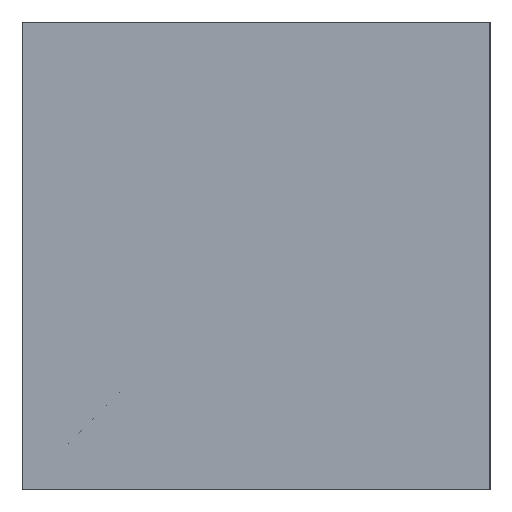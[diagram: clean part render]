
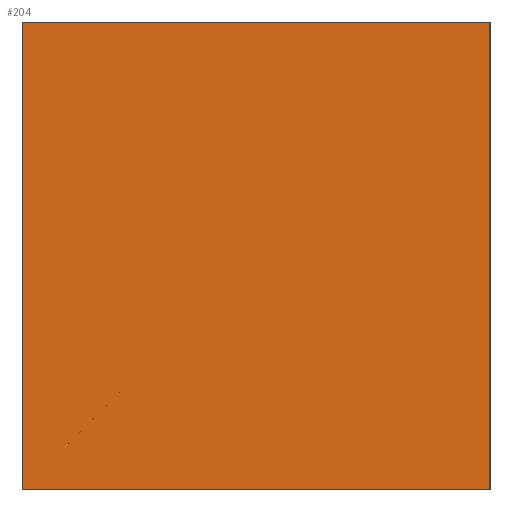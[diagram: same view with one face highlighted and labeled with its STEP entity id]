
A CAD part, left-side view. The second image highlights one B-rep face of the part: STEP entity #204.
In plain terms, the highlighted planar face has unit normal (-1, 0, 0).
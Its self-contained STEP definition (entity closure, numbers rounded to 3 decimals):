
#57=CARTESIAN_POINT('Line Origine',(-40.,25.,0.)) ;
#61=CARTESIAN_POINT('Vertex',(-40.,25.,-12.5)) ;
#63=CARTESIAN_POINT('Vertex',(-40.,25.,12.5)) ;
#174=CARTESIAN_POINT('Axis2P3D Location',(-40.,0.,-0.)) ;
#179=CARTESIAN_POINT('Line Origine',(-40.,12.5,-12.5)) ;
#183=CARTESIAN_POINT('Vertex',(-40.,0.,-12.5)) ;
#186=CARTESIAN_POINT('Line Origine',(-40.,0.,0.)) ;
#190=CARTESIAN_POINT('Vertex',(-40.,0.,12.5)) ;
#193=CARTESIAN_POINT('Line Origine',(-40.,12.5,12.5)) ;
#58=DIRECTION('Vector Direction',(0.,0.,1.)) ;
#175=DIRECTION('Axis2P3D Direction',(1.,0.,-0.)) ;
#176=DIRECTION('Axis2P3D XDirection',(-0.,0.,-1.)) ;
#180=DIRECTION('Vector Direction',(0.,1.,0.)) ;
#187=DIRECTION('Vector Direction',(0.,0.,-1.)) ;
#194=DIRECTION('Vector Direction',(0.,-1.,0.)) ;
#177=AXIS2_PLACEMENT_3D('Plane Axis2P3D',#174,#175,#176) ;
#199=ORIENTED_EDGE('',*,*,#65,.F.) ;
#200=ORIENTED_EDGE('',*,*,#185,.F.) ;
#201=ORIENTED_EDGE('',*,*,#192,.F.) ;
#202=ORIENTED_EDGE('',*,*,#197,.F.) ;
#59=VECTOR('Line Direction',#58,1.) ;
#181=VECTOR('Line Direction',#180,1.) ;
#188=VECTOR('Line Direction',#187,1.) ;
#195=VECTOR('Line Direction',#194,1.) ;
#204=ADVANCED_FACE('760-2525080',(#203),#178,.F.) ;
#65=EDGE_CURVE('',#62,#64,#60,.T.) ;
#185=EDGE_CURVE('',#184,#62,#182,.T.) ;
#192=EDGE_CURVE('',#191,#184,#189,.T.) ;
#197=EDGE_CURVE('',#64,#191,#196,.T.) ;
#198=EDGE_LOOP('',(#199,#200,#201,#202)) ;
#203=FACE_OUTER_BOUND('',#198,.T.) ;
#60=LINE('Line',#57,#59) ;
#182=LINE('Line',#179,#181) ;
#189=LINE('Line',#186,#188) ;
#196=LINE('Line',#193,#195) ;
#178=PLANE('Plane',#177) ;
#62=VERTEX_POINT('',#61) ;
#64=VERTEX_POINT('',#63) ;
#184=VERTEX_POINT('',#183) ;
#191=VERTEX_POINT('',#190) ;
